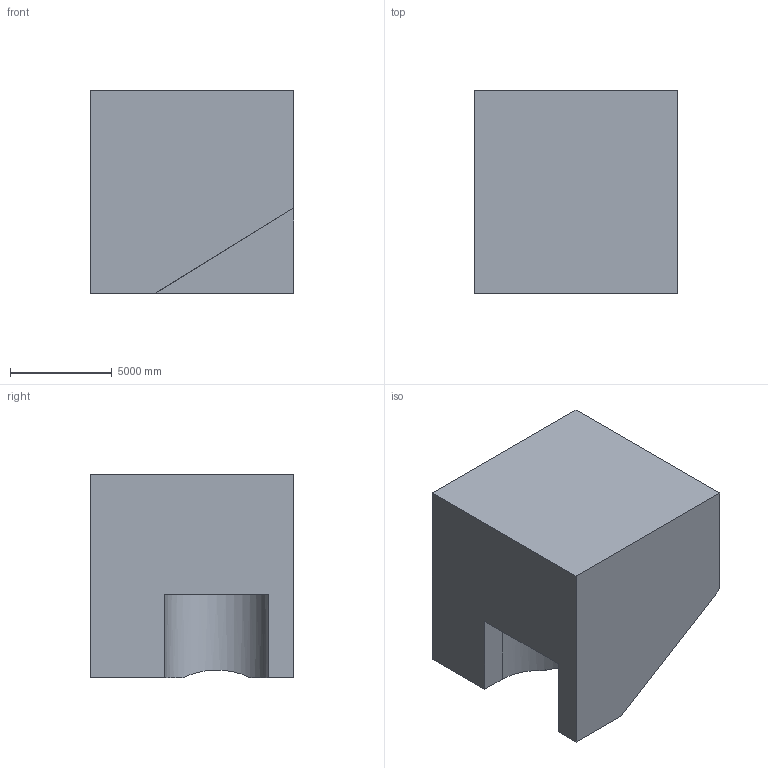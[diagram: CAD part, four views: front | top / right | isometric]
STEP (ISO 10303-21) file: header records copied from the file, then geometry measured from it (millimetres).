
FILE_DESCRIPTION (( 'STEP AP203' ), '1' );
FILE_NAME ('52.STEP', '2022-07-28T13:29:55', ( 'user' ), ( '' ), 'SwSTEP 2.0', 'SolidWorks 2021', '' );
FILE_SCHEMA (( 'CONFIG_CONTROL_DESIGN' ));
Length unit declared in the file: centimetre
Products named in the file (1): 52
Bounding box: 10000 x 10000 x 10000 mm (x, y, z)
Volume: 855522596294.8 mm3; surface area: 604388528.2 mm2
Topology: 1 solids, 1 shells, 13 faces, 33 edges, 22 vertices
Faces by surface type: plane 12, cylinder 1
Entity records: 467 total; most frequent: CARTESIAN_POINT 72, ORIENTED_EDGE 66, DIRECTION 63, EDGE_CURVE 33, LINE 29, VECTOR 29, VERTEX_POINT 22, AXIS2_PLACEMENT_3D 17
